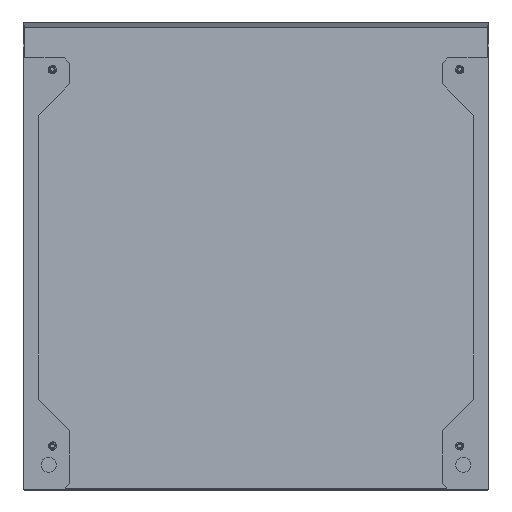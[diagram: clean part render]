
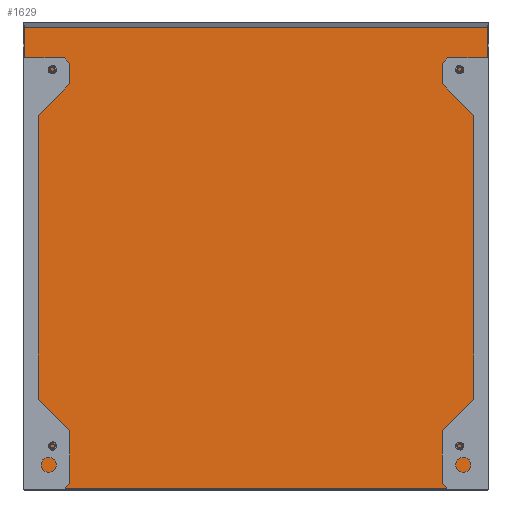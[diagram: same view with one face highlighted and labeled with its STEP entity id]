
A CAD part, front view. The second image highlights one B-rep face of the part: STEP entity #1629.
In plain terms, the highlighted planar face has unit normal (0, -0.999, 0.041).
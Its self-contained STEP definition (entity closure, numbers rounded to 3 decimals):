
#244 = EDGE_CURVE ( 'NONE', #2539, #2541, #3773, .T. ) ;
#245 = EDGE_CURVE ( 'NONE', #2541, #2540, #3776, .T. ) ;
#246 = EDGE_CURVE ( 'NONE', #2538, #2539, #3779, .T. ) ;
#247 = EDGE_CURVE ( 'NONE', #2540, #2538, #3782, .T. ) ;
#587 = AXIS2_PLACEMENT_3D ( 'NONE', #1964, #1965, #1966 ) ;
#594 = FACE_OUTER_BOUND ( 'NONE', #2771, .T. ) ;
#816 = VECTOR ( 'NONE', #3784, 1000. ) ;
#818 = VECTOR ( 'NONE', #3781, 1000. ) ;
#820 = VECTOR ( 'NONE', #3778, 1000. ) ;
#821 = VECTOR ( 'NONE', #3775, 1000. ) ;
#1311 = ORIENTED_EDGE ( 'NONE', *, *, #247, .F. ) ;
#1312 = ORIENTED_EDGE ( 'NONE', *, *, #244, .F. ) ;
#1313 = ORIENTED_EDGE ( 'NONE', *, *, #246, .F. ) ;
#1314 = ORIENTED_EDGE ( 'NONE', *, *, #245, .F. ) ;
#1629 = ADVANCED_FACE ( 'NONE', ( #594 ), #1963, .F. ) ;
#1963 = PLANE ( 'NONE',  #587 ) ;
#1964 = CARTESIAN_POINT ( 'NONE',  ( -810., 57.805, 805.313 ) ) ;
#1965 = DIRECTION ( 'NONE',  ( 0., 0.999, -0.041 ) ) ;
#1966 = DIRECTION ( 'NONE',  ( 0., 0.041, 0.999 ) ) ;
#2318 = CARTESIAN_POINT ( 'NONE',  ( -2., 57.732, 803.545 ) ) ;
#2319 = CARTESIAN_POINT ( 'NONE',  ( -2., 24.88, 1.975 ) ) ;
#2320 = CARTESIAN_POINT ( 'NONE',  ( -808., 57.732, 803.545 ) ) ;
#2321 = CARTESIAN_POINT ( 'NONE',  ( -808., 24.88, 1.975 ) ) ;
#2538 = VERTEX_POINT ( 'NONE', #2318 ) ;
#2539 = VERTEX_POINT ( 'NONE', #2319 ) ;
#2540 = VERTEX_POINT ( 'NONE', #2320 ) ;
#2541 = VERTEX_POINT ( 'NONE', #2321 ) ;
#2771 = EDGE_LOOP ( 'NONE', ( #1314, #1312, #1313, #1311 ) ) ;
#3773 = LINE ( 'NONE', #3774, #821 ) ;
#3774 = CARTESIAN_POINT ( 'NONE',  ( -810., 24.88, 1.975 ) ) ;
#3775 = DIRECTION ( 'NONE',  ( -1., 0., 0. ) ) ;
#3776 = LINE ( 'NONE', #3777, #820 ) ;
#3777 = CARTESIAN_POINT ( 'NONE',  ( -808., 57.805, 805.313 ) ) ;
#3778 = DIRECTION ( 'NONE',  ( 0., 0.041, 0.999 ) ) ;
#3779 = LINE ( 'NONE', #3780, #818 ) ;
#3780 = CARTESIAN_POINT ( 'NONE',  ( -2., 57.805, 805.313 ) ) ;
#3781 = DIRECTION ( 'NONE',  ( 0., -0.041, -0.999 ) ) ;
#3782 = LINE ( 'NONE', #3783, #816 ) ;
#3783 = CARTESIAN_POINT ( 'NONE',  ( -810., 57.732, 803.545 ) ) ;
#3784 = DIRECTION ( 'NONE',  ( 1., 0., 0. ) ) ;
